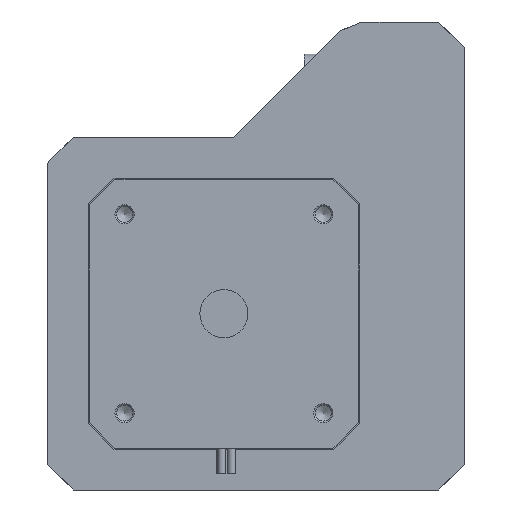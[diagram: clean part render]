
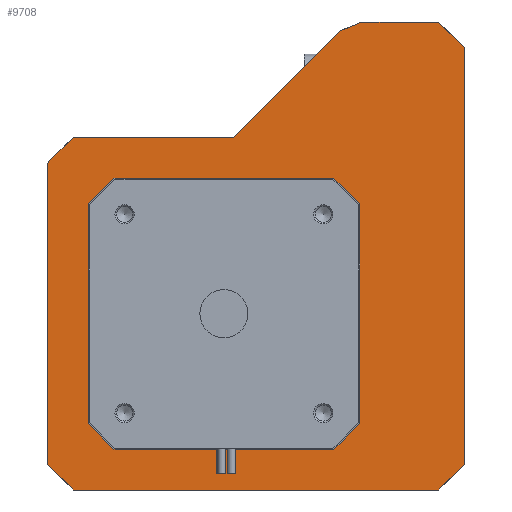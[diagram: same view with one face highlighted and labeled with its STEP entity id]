
A CAD part, front view. The second image highlights one B-rep face of the part: STEP entity #9708.
In plain terms, the highlighted planar face has unit normal (0, -1, 0).
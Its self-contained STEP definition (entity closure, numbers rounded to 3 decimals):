
#580=FACE_BOUND('',#1767,.T.);
#1167=FACE_OUTER_BOUND('',#1766,.T.);
#1766=EDGE_LOOP('',(#8048,#8049,#8050,#8051,#8052,#8053,#8054,#8055,#8056,
#8057,#8058));
#1767=EDGE_LOOP('',(#8059,#8060,#8061,#8062,#8063,#8064,#8065,#8066));
#2579=LINE('',#15285,#3580);
#2610=LINE('',#15362,#3611);
#2622=LINE('',#15384,#3623);
#2651=LINE('',#15445,#3652);
#2675=LINE('',#15496,#3676);
#2677=LINE('',#15500,#3678);
#2678=LINE('',#15502,#3679);
#2679=LINE('',#15503,#3680);
#2680=LINE('',#15504,#3681);
#2681=LINE('',#15505,#3682);
#2682=LINE('',#15506,#3683);
#2683=LINE('',#15509,#3684);
#2684=LINE('',#15511,#3685);
#2685=LINE('',#15513,#3686);
#2686=LINE('',#15515,#3687);
#2687=LINE('',#15517,#3688);
#2688=LINE('',#15519,#3689);
#2689=LINE('',#15521,#3690);
#2690=LINE('',#15522,#3691);
#3580=VECTOR('',#12316,10.);
#3611=VECTOR('',#12373,10.);
#3623=VECTOR('',#12393,10.);
#3652=VECTOR('',#12444,10.);
#3676=VECTOR('',#12496,10.);
#3678=VECTOR('',#12500,10.);
#3679=VECTOR('',#12501,10.);
#3680=VECTOR('',#12502,10.);
#3681=VECTOR('',#12503,10.);
#3682=VECTOR('',#12504,10.);
#3683=VECTOR('',#12505,10.);
#3684=VECTOR('',#12506,10.);
#3685=VECTOR('',#12507,10.);
#3686=VECTOR('',#12508,10.);
#3687=VECTOR('',#12509,10.);
#3688=VECTOR('',#12510,10.);
#3689=VECTOR('',#12511,10.);
#3690=VECTOR('',#12512,10.);
#3691=VECTOR('',#12513,10.);
#4516=VERTEX_POINT('',#15283);
#4517=VERTEX_POINT('',#15284);
#4549=VERTEX_POINT('',#15359);
#4550=VERTEX_POINT('',#15361);
#4556=VERTEX_POINT('',#15382);
#4576=VERTEX_POINT('',#15442);
#4577=VERTEX_POINT('',#15444);
#4589=VERTEX_POINT('',#15493);
#4590=VERTEX_POINT('',#15495);
#4591=VERTEX_POINT('',#15499);
#4592=VERTEX_POINT('',#15501);
#4593=VERTEX_POINT('',#15507);
#4594=VERTEX_POINT('',#15508);
#4595=VERTEX_POINT('',#15510);
#4596=VERTEX_POINT('',#15512);
#4597=VERTEX_POINT('',#15514);
#4598=VERTEX_POINT('',#15516);
#4599=VERTEX_POINT('',#15518);
#4600=VERTEX_POINT('',#15520);
#5697=EDGE_CURVE('',#4516,#4517,#2579,.T.);
#5735=EDGE_CURVE('',#4549,#4550,#2610,.T.);
#5747=EDGE_CURVE('',#4556,#4516,#2622,.T.);
#5777=EDGE_CURVE('',#4576,#4577,#2651,.T.);
#5804=EDGE_CURVE('',#4589,#4590,#2675,.T.);
#5806=EDGE_CURVE('',#4591,#4556,#2677,.T.);
#5807=EDGE_CURVE('',#4592,#4591,#2678,.T.);
#5808=EDGE_CURVE('',#4592,#4550,#2679,.T.);
#5809=EDGE_CURVE('',#4549,#4590,#2680,.T.);
#5810=EDGE_CURVE('',#4589,#4577,#2681,.T.);
#5811=EDGE_CURVE('',#4517,#4576,#2682,.T.);
#5812=EDGE_CURVE('',#4593,#4594,#2683,.T.);
#5813=EDGE_CURVE('',#4595,#4594,#2684,.T.);
#5814=EDGE_CURVE('',#4595,#4596,#2685,.T.);
#5815=EDGE_CURVE('',#4597,#4596,#2686,.T.);
#5816=EDGE_CURVE('',#4597,#4598,#2687,.T.);
#5817=EDGE_CURVE('',#4599,#4598,#2688,.T.);
#5818=EDGE_CURVE('',#4599,#4600,#2689,.T.);
#5819=EDGE_CURVE('',#4593,#4600,#2690,.T.);
#8048=ORIENTED_EDGE('',*,*,#5697,.F.);
#8049=ORIENTED_EDGE('',*,*,#5747,.F.);
#8050=ORIENTED_EDGE('',*,*,#5806,.F.);
#8051=ORIENTED_EDGE('',*,*,#5807,.F.);
#8052=ORIENTED_EDGE('',*,*,#5808,.T.);
#8053=ORIENTED_EDGE('',*,*,#5735,.F.);
#8054=ORIENTED_EDGE('',*,*,#5809,.T.);
#8055=ORIENTED_EDGE('',*,*,#5804,.F.);
#8056=ORIENTED_EDGE('',*,*,#5810,.T.);
#8057=ORIENTED_EDGE('',*,*,#5777,.F.);
#8058=ORIENTED_EDGE('',*,*,#5811,.F.);
#8059=ORIENTED_EDGE('',*,*,#5812,.T.);
#8060=ORIENTED_EDGE('',*,*,#5813,.F.);
#8061=ORIENTED_EDGE('',*,*,#5814,.T.);
#8062=ORIENTED_EDGE('',*,*,#5815,.F.);
#8063=ORIENTED_EDGE('',*,*,#5816,.T.);
#8064=ORIENTED_EDGE('',*,*,#5817,.F.);
#8065=ORIENTED_EDGE('',*,*,#5818,.T.);
#8066=ORIENTED_EDGE('',*,*,#5819,.F.);
#9252=PLANE('',#10627);
#9708=ADVANCED_FACE('',(#1167,#580),#9252,.T.);
#10627=AXIS2_PLACEMENT_3D('',#15498,#12498,#12499);
#12316=DIRECTION('',(0.924,0.,0.383));
#12373=DIRECTION('',(-0.707,0.,0.707));
#12393=DIRECTION('',(0.707,0.,0.707));
#12444=DIRECTION('',(0.707,0.,-0.707));
#12496=DIRECTION('',(-0.707,0.,-0.707));
#12498=DIRECTION('center_axis',(0.,-1.,0.));
#12499=DIRECTION('ref_axis',(0.,0.,-1.));
#12500=DIRECTION('',(1.,0.,0.));
#12501=DIRECTION('',(0.707,0.,0.707));
#12502=DIRECTION('',(0.,0.,-1.));
#12503=DIRECTION('',(1.,0.,0.));
#12504=DIRECTION('',(0.,0.,1.));
#12505=DIRECTION('',(1.,0.,0.));
#12506=DIRECTION('',(0.,0.,1.));
#12507=DIRECTION('',(-0.707,0.,-0.707));
#12508=DIRECTION('',(1.,0.,0.));
#12509=DIRECTION('',(-0.707,0.,0.707));
#12510=DIRECTION('',(0.,0.,-1.));
#12511=DIRECTION('',(0.707,0.,0.707));
#12512=DIRECTION('',(-1.,0.,0.));
#12513=DIRECTION('',(0.707,0.,-0.707));
#15283=CARTESIAN_POINT('',(18.086,-10.,44.086));
#15284=CARTESIAN_POINT('',(21.5,-10.,45.5));
#15285=CARTESIAN_POINT('',(3.427,-10.,38.014));
#15359=CARTESIAN_POINT('',(-23.5,-10.,-27.5));
#15361=CARTESIAN_POINT('',(-27.5,-10.,-23.5));
#15362=CARTESIAN_POINT('',(-25.5,-10.,-25.5));
#15382=CARTESIAN_POINT('',(1.5,-10.,27.5));
#15384=CARTESIAN_POINT('',(-1.25,-10.,24.75));
#15442=CARTESIAN_POINT('',(33.5,-10.,45.5));
#15444=CARTESIAN_POINT('',(37.5,-10.,41.5));
#15445=CARTESIAN_POINT('',(37.5,-10.,41.5));
#15493=CARTESIAN_POINT('',(37.5,-10.,-23.5));
#15495=CARTESIAN_POINT('',(33.5,-10.,-27.5));
#15496=CARTESIAN_POINT('',(33.,-10.,-28.));
#15498=CARTESIAN_POINT('Origin',(0.,-10.,0.));
#15499=CARTESIAN_POINT('',(-23.5,-10.,27.5));
#15500=CARTESIAN_POINT('',(27.5,-10.,27.5));
#15501=CARTESIAN_POINT('',(-27.5,-10.,23.5));
#15502=CARTESIAN_POINT('',(-25.5,-10.,25.5));
#15503=CARTESIAN_POINT('',(-27.5,-10.,-27.5));
#15504=CARTESIAN_POINT('',(27.5,-10.,-27.5));
#15505=CARTESIAN_POINT('',(37.5,-10.,27.5));
#15506=CARTESIAN_POINT('',(17.15,-10.,45.5));
#15507=CARTESIAN_POINT('',(-21.15,-10.,-17.15));
#15508=CARTESIAN_POINT('',(-21.15,-10.,17.15));
#15509=CARTESIAN_POINT('',(-21.15,-10.,21.15));
#15510=CARTESIAN_POINT('',(-17.15,-10.,21.15));
#15511=CARTESIAN_POINT('',(-19.15,-10.,19.15));
#15512=CARTESIAN_POINT('',(17.15,-10.,21.15));
#15513=CARTESIAN_POINT('',(21.15,-10.,21.15));
#15514=CARTESIAN_POINT('',(21.15,-10.,17.15));
#15515=CARTESIAN_POINT('',(19.15,-10.,19.15));
#15516=CARTESIAN_POINT('',(21.15,-10.,-17.15));
#15517=CARTESIAN_POINT('',(21.15,-10.,-21.15));
#15518=CARTESIAN_POINT('',(17.15,-10.,-21.15));
#15519=CARTESIAN_POINT('',(19.15,-10.,-19.15));
#15520=CARTESIAN_POINT('',(-17.15,-10.,-21.15));
#15521=CARTESIAN_POINT('',(-21.15,-10.,-21.15));
#15522=CARTESIAN_POINT('',(-19.15,-10.,-19.15));
